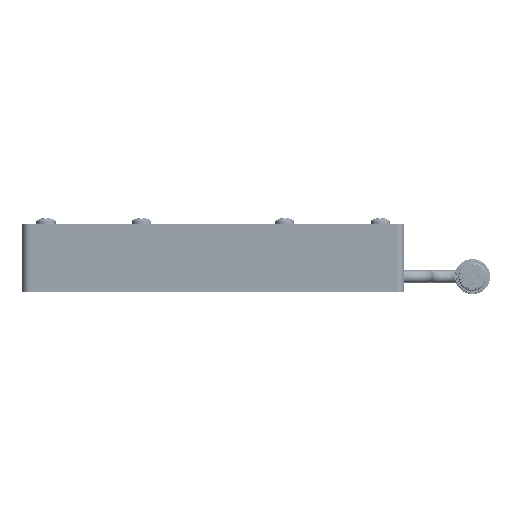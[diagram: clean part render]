
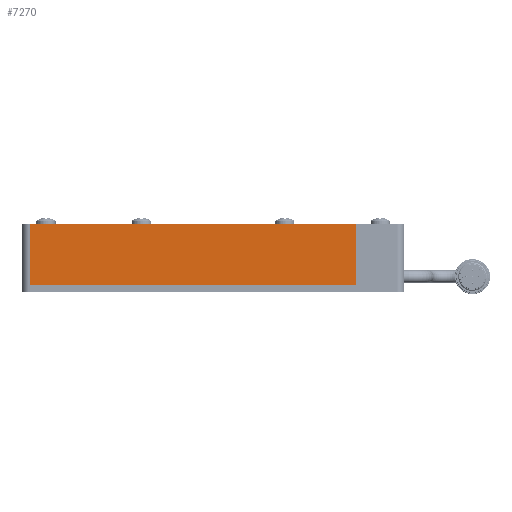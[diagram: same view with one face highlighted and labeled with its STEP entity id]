
A CAD part, left-side view. The second image highlights one B-rep face of the part: STEP entity #7270.
In plain terms, the highlighted planar face has unit normal (-1, 0, 0) as drawn and (0, 0, -1) by its records, which use the part's own axes.
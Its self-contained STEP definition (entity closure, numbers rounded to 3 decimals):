
#95 = VECTOR ( 'NONE', #7807, 1000. ) ;
#449 = DIRECTION ( 'NONE',  ( 1., 0., 0. ) ) ;
#1345 = AXIS2_PLACEMENT_3D ( 'NONE', #14560, #13622, #449 ) ;
#1458 = LINE ( 'NONE', #4977, #10909 ) ;
#1625 = FACE_OUTER_BOUND ( 'NONE', #8043, .T. ) ;
#1861 = PLANE ( 'NONE',  #1345 ) ;
#2131 = VECTOR ( 'NONE', #10432, 1000. ) ;
#2309 = LINE ( 'NONE', #11454, #6749 ) ;
#3411 = VERTEX_POINT ( 'NONE', #6118 ) ;
#4065 = EDGE_CURVE ( 'NONE', #12710, #13164, #6834, .T. ) ;
#4977 = CARTESIAN_POINT ( 'NONE',  ( -60., 248.492, -10. ) ) ;
#5235 = ORIENTED_EDGE ( 'NONE', *, *, #11080, .T. ) ;
#6118 = CARTESIAN_POINT ( 'NONE',  ( -60., 12.7, -10. ) ) ;
#6749 = VECTOR ( 'NONE', #10349, 1000. ) ;
#6834 = LINE ( 'NONE', #11603, #2131 ) ;
#6865 = CARTESIAN_POINT ( 'NONE',  ( -80., 12.7, -10. ) ) ;
#7184 = EDGE_CURVE ( 'NONE', #9014, #3411, #15059, .T. ) ;
#7270 = ADVANCED_FACE ( 'NONE', ( #1625 ), #1861, .F. ) ;
#7558 = ORIENTED_EDGE ( 'NONE', *, *, #4065, .T. ) ;
#7807 = DIRECTION ( 'NONE',  ( -1., 0., 0. ) ) ;
#8043 = EDGE_LOOP ( 'NONE', ( #13137, #5235, #7558, #12657 ) ) ;
#9014 = VERTEX_POINT ( 'NONE', #12006 ) ;
#9864 = DIRECTION ( 'NONE',  ( 0., -1., 0. ) ) ;
#10349 = DIRECTION ( 'NONE',  ( 0., -1., 0. ) ) ;
#10432 = DIRECTION ( 'NONE',  ( -1., 0., 0. ) ) ;
#10909 = VECTOR ( 'NONE', #9864, 1000. ) ;
#11080 = EDGE_CURVE ( 'NONE', #9014, #12710, #2309, .T. ) ;
#11268 = CARTESIAN_POINT ( 'NONE',  ( -60., -12.7, -10. ) ) ;
#11454 = CARTESIAN_POINT ( 'NONE',  ( 76.825, 12.7, -10. ) ) ;
#11603 = CARTESIAN_POINT ( 'NONE',  ( -80., -12.7, -10. ) ) ;
#12006 = CARTESIAN_POINT ( 'NONE',  ( 76.825, 12.7, -10. ) ) ;
#12657 = ORIENTED_EDGE ( 'NONE', *, *, #12886, .F. ) ;
#12710 = VERTEX_POINT ( 'NONE', #12795 ) ;
#12795 = CARTESIAN_POINT ( 'NONE',  ( 76.825, -12.7, -10. ) ) ;
#12886 = EDGE_CURVE ( 'NONE', #3411, #13164, #1458, .T. ) ;
#13137 = ORIENTED_EDGE ( 'NONE', *, *, #7184, .F. ) ;
#13164 = VERTEX_POINT ( 'NONE', #11268 ) ;
#13622 = DIRECTION ( 'NONE',  ( 0., 0., 1. ) ) ;
#14560 = CARTESIAN_POINT ( 'NONE',  ( -80., 12.7, -10. ) ) ;
#15059 = LINE ( 'NONE', #6865, #95 ) ;
